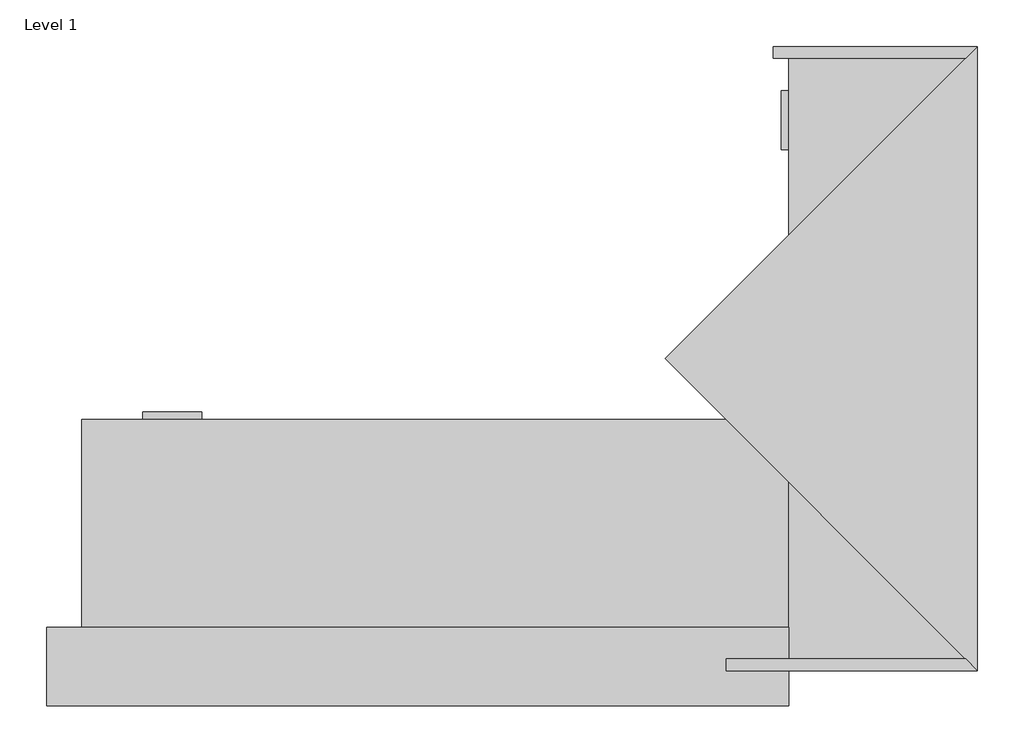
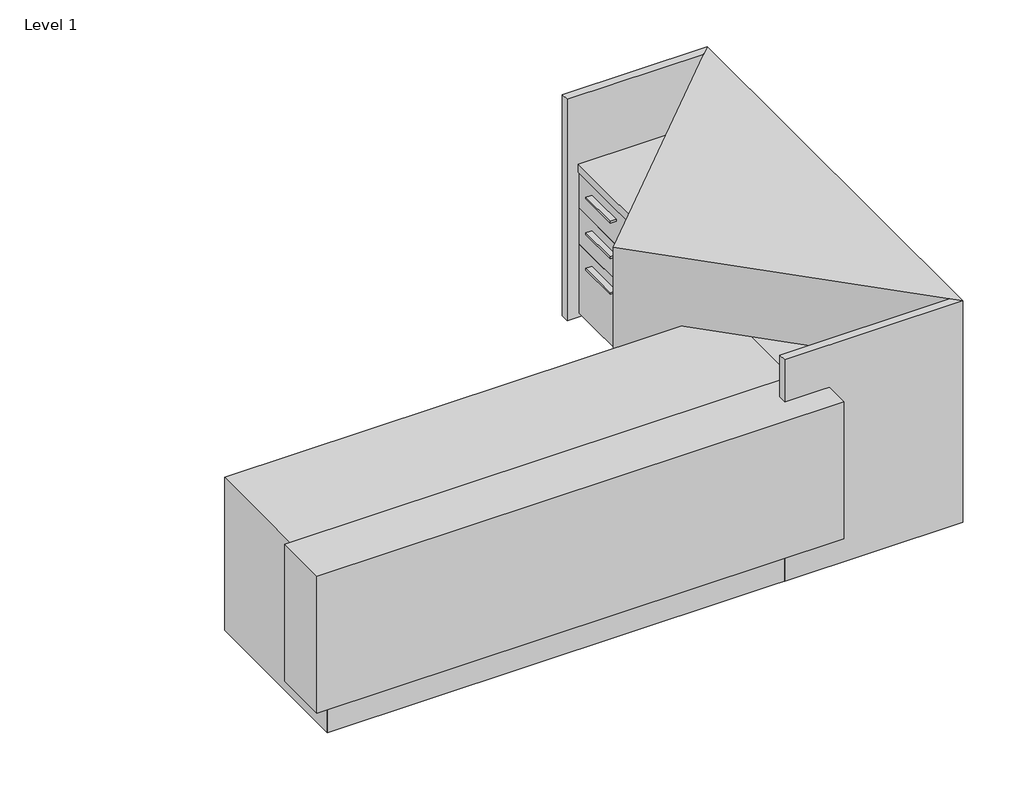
# One storey: 5 proxies.
"""IFC4 building model written with IfcOpenShell, lengths in millimetres."""

import ifcopenshell
import ifcopenshell.guid

model = None  # the IFC model being written
_history = None  # IfcOwnerHistory: only IFC2X3 demands one
_inside = {}  # id of a spatial element -> (the spatial element, [elements in it])
_under = {}  # id of a project, library or spatial element -> (it, [spatial elements below it])
_declared = {}  # id of a project -> (the project, [libraries it declares])
_typed = {}  # id of a type object -> (the type object, [elements of that type])
_made_of = {}  # id of a material, layer set ... -> (it, [elements and type objects made of it])


def new_model(schema):
    """Start an empty IFC model of exactly this schema.

    Asked for "IFC4X3", IfcOpenShell would pick the latest addendum, in which some entities
    have other attributes; the version numbers below select the first issue.
    IFC2X3 requires an IfcOwnerHistory on every rooted entity: one is made here for all.
    """
    global model, _history
    if schema == "IFC4X3":
        model = ifcopenshell.file(schema_version=(4, 3, 0, 0))
    else:
        model = ifcopenshell.file(schema=schema)
    _inside.clear()
    _under.clear()
    _declared.clear()
    _typed.clear()
    _made_of.clear()
    _history = None
    if model.schema == "IFC2X3":
        org = make("IfcOrganization", Name="unknown")
        user = make(
            "IfcPersonAndOrganization",
            ThePerson=make("IfcPerson", FamilyName="unknown"),
            TheOrganization=org,
        )
        app = make(
            "IfcApplication",
            ApplicationDeveloper=org,
            Version="unknown",
            ApplicationFullName="unknown",
            ApplicationIdentifier="unknown",
        )
        _history = make(
            "IfcOwnerHistory",
            OwningUser=user,
            OwningApplication=app,
            ChangeAction="ADDED",
            CreationDate=0,
        )
    return model


def make(cls, **values):
    """One entity of the class cls with the attributes given. An attribute that is None is left unset."""
    return model.create_entity(
        cls, **{name: value for name, value in values.items() if value is not None}
    )


def rooted(cls, **values):
    """An entity with a GlobalId (a new one), such as an element, a storey or a relation."""
    return make(cls, GlobalId=ifcopenshell.guid.new(), OwnerHistory=_history, **values)


def si_unit(unit_type, name, prefix=None):
    """IfcSIUnit, for example si_unit("LENGTHUNIT", "METRE", prefix="MILLI")."""
    return make("IfcSIUnit", UnitType=unit_type, Prefix=prefix, Name=name)


def assignment(units):
    """IfcUnitAssignment: the units of a project."""
    return None if units is None else make("IfcUnitAssignment", Units=units)


def point(xyz):
    """IfcCartesianPoint."""
    return None if xyz is None else make("IfcCartesianPoint", Coordinates=xyz)


def direction(xyz):
    """IfcDirection."""
    return None if xyz is None else make("IfcDirection", DirectionRatios=xyz)


def frame(location, z_axis=None, x_axis=None):
    """IfcAxis2Placement3D, a coordinate frame: its origin and axes. An axis left out is left unset."""
    return make(
        "IfcAxis2Placement3D",
        Location=point(location),
        Axis=direction(z_axis),
        RefDirection=direction(x_axis),
    )


def origin():
    """The frame at (0, 0, 0) with its axes left unset."""
    return frame((0.0, 0.0, 0.0))


def place(relative_to, where):
    """IfcLocalPlacement: puts the frame where relative to a parent placement (None: the world)."""
    return make(
        "IfcLocalPlacement", PlacementRelTo=relative_to, RelativePlacement=where
    )


def context(
    kind, dimensions, precision=None, world=None, true_north=None, identifier=None
):
    """IfcGeometricRepresentationContext, for example the 3D "Model" context."""
    return make(
        "IfcGeometricRepresentationContext",
        ContextIdentifier=identifier,
        ContextType=kind,
        CoordinateSpaceDimension=dimensions,
        Precision=precision,
        WorldCoordinateSystem=world,
        TrueNorth=true_north,
    )


def project(units=None, contexts=None):
    """IfcProject with its units and contexts."""
    return rooted(
        "IfcProject",
        Name="project",
        RepresentationContexts=contexts,
        UnitsInContext=assignment(units),
    )


def spatial(cls, under=None, at=None, **own):
    """A site, building, storey or space (cls), placed at a placement, below another one or the project."""
    s = rooted(cls, ObjectPlacement=at, **own)
    if under is not None:
        _under.setdefault(under.id(), (under, []))[1].append(s)
    return s


def polyline(points):
    """IfcPolyline through the points."""
    return make("IfcPolyline", Points=[point(p) for p in points])


def outline(outer, holes=None, kind="AREA"):
    """IfcArbitraryClosedProfileDef: a profile drawn as a closed curve; with holes, ...WithVoids."""
    if holes is None:
        return make("IfcArbitraryClosedProfileDef", ProfileType=kind, OuterCurve=outer)
    return make(
        "IfcArbitraryProfileDefWithVoids",
        ProfileType=kind,
        OuterCurve=outer,
        InnerCurves=holes,
    )


def extrude(swept, where, along, depth):
    """IfcExtrudedAreaSolid: the profile swept, set in the frame where, extruded along a direction by depth."""
    return make(
        "IfcExtrudedAreaSolid",
        SweptArea=swept,
        Position=where,
        ExtrudedDirection=direction(along),
        Depth=depth,
    )


def faces_of(points, faces, orient=None, outer=None):
    """IfcFace entities. A face is a list of loops; a loop is a list of indices into points, from 0.

    orient and outer hold one flag for each loop. By default every Orientation is true, the
    first loop of a face is its IfcFaceOuterBound and the others are IfcFaceBound.
    """
    made = []
    for i, loops in enumerate(faces):
        bounds = []
        for j, loop in enumerate(loops):
            is_outer = j == 0 if outer is None else outer[i][j]
            bounds.append(
                make(
                    "IfcFaceOuterBound" if is_outer else "IfcFaceBound",
                    Bound=make("IfcPolyLoop", Polygon=[points[k] for k in loop]),
                    Orientation=True if orient is None else orient[i][j],
                )
            )
        made.append(make("IfcFace", Bounds=bounds))
    return made


def faceted_brep(points, faces, orient=None, outer=None, voids=None):
    """IfcFacetedBrep: a solid bounded by flat faces; with voids (closed shells), ...WithVoids."""
    shared = [point(p) for p in points]
    hull = make("IfcClosedShell", CfsFaces=faces_of(shared, faces, orient, outer))
    if voids is None:
        return make("IfcFacetedBrep", Outer=hull)
    return make(
        "IfcFacetedBrepWithVoids",
        Outer=hull,
        Voids=[
            make(cls, CfsFaces=faces_of(shared, fs, o, b)) for cls, fs, o, b in voids
        ],
    )


def shape(context_of_items, identifier, shape_type, items):
    """IfcShapeRepresentation: the items that make up one representation, for example the "Body"."""
    return make(
        "IfcShapeRepresentation",
        ContextOfItems=context_of_items,
        RepresentationIdentifier=identifier,
        RepresentationType=shape_type,
        Items=items,
    )


def source(mapping_origin, context_of_items, identifier, shape_type, items):
    """IfcRepresentationMap: a shape defined once, which mapped items show again and again."""
    return make(
        "IfcRepresentationMap",
        MappingOrigin=mapping_origin,
        MappedRepresentation=shape(context_of_items, identifier, shape_type, items),
    )


def transform(
    local_origin,
    x_axis=None,
    y_axis=None,
    z_axis=None,
    scale=None,
    scale2=None,
    scale3=None,
    uniform=True,
):
    """IfcCartesianTransformationOperator3D, or its non-uniform kind. x_axis, y_axis, z_axis: its Axis1, 2, 3."""
    if uniform:
        return make(
            "IfcCartesianTransformationOperator3D",
            Axis1=direction(x_axis),
            Axis2=direction(y_axis),
            LocalOrigin=point(local_origin),
            Scale=scale,
            Axis3=direction(z_axis),
        )
    return make(
        "IfcCartesianTransformationOperator3DnonUniform",
        Axis1=direction(x_axis),
        Axis2=direction(y_axis),
        LocalOrigin=point(local_origin),
        Scale=scale,
        Axis3=direction(z_axis),
        Scale2=scale2,
        Scale3=scale3,
    )


def mapped(mapping_source, mapping_target):
    """IfcMappedItem: shows the shape of a source again, moved by a transform."""
    return make(
        "IfcMappedItem", MappingSource=mapping_source, MappingTarget=mapping_target
    )


def made_of(thing, what):
    """Note that an element or type object is made of a material, layer set ...; save() writes the relation."""
    if what is not None:
        _made_of.setdefault(what.id(), (what, []))[1].append(thing)
    return thing


def element(
    cls,
    number,
    at=None,
    inside=None,
    cuts=None,
    type_object=None,
    material=None,
    context=None,
    identifier="Body",
    shape_type=None,
    held_by="IfcProductDefinitionShape",
    body=None,
    shapes=None,
    **own,
):
    """One element of the class cls, such as IfcWall. Its Tag is "e" and its number.

    at: its placement. inside: the storey or other place that contains it. cuts: it is an
    opening in that element (IfcRelVoidsElement). A single representation is given by context,
    identifier, shape_type and body (its items); several are given by shapes. held_by: the class
    of the entity that holds the representations. save() writes the other relations.
    """
    e = rooted(cls, Tag="e%d" % number, ObjectPlacement=at, **own)
    if body is not None:
        shapes = [shape(context, identifier, shape_type, body)]
    if shapes is not None:
        e.Representation = make(held_by, Representations=shapes)
    if inside is not None:
        _inside.setdefault(inside.id(), (inside, []))[1].append(e)
    if cuts is not None:
        rooted(
            "IfcRelVoidsElement", RelatingBuildingElement=cuts, RelatedOpeningElement=e
        )
    if type_object is not None:
        _typed.setdefault(type_object.id(), (type_object, []))[1].append(e)
    return made_of(e, material)


def aggregate(whole, parts):
    """IfcRelAggregates: a whole, such as a stair, and the parts it consists of."""
    return rooted("IfcRelAggregates", RelatingObject=whole, RelatedObjects=parts)


def save(model, path):
    """Write the relations noted so far, then the file.

    IfcRelAggregates (storeys below a building ...), IfcRelContainedInSpatialStructure (elements
    in a storey), IfcRelDefinesByType, IfcRelAssociatesMaterial and IfcRelDeclares: one each for
    every whole, place, type object, material and project.
    """
    for whole, parts in _under.values():
        aggregate(whole, parts)
    for where, things in _inside.values():
        rooted(
            "IfcRelContainedInSpatialStructure",
            RelatedElements=things,
            RelatingStructure=where,
        )
    for kind, things in _typed.values():
        rooted("IfcRelDefinesByType", RelatedObjects=things, RelatingType=kind)
    for what, things in _made_of.values():
        rooted("IfcRelAssociatesMaterial", RelatedObjects=things, RelatingMaterial=what)
    for by, libraries in _declared.values():
        rooted("IfcRelDeclares", RelatingContext=by, RelatedDefinitions=libraries)
    model.write(path)


def generic_models_16f8150b(model_context):
    return source(origin(), model_context, "Body", "SweptSolid", [
        extrude(outline(polyline([(234.6325, 0.0), (42.8625, 0.0), (42.8625, 8.89), (234.6325, 8.89), (234.6325, 0.0)])), frame((0.0, 0.0, 25.4), z_axis=(0.0, 0.0, 1.0), x_axis=(1.0, 0.0, 0.0)), (0.0, 0.0, 1.0), 27.94),
    ])


def generic_models_22d0e814(model_context):
    return source(origin(), model_context, "Body", "SolidModel", [
        extrude(outline(polyline([(-609.6, 698.5), (-609.6, 736.6), (-38.1, 736.6), (-38.1, 698.5), (-609.6, 698.5)])), frame((0.0, 0.0, -1981.2), z_axis=(0.0, 0.0, 1.0), x_axis=(1.0, 0.0, 0.0)), (0.0, 0.0, 1.0), 1943.1),
        faceted_brep([(-1765.3, 736.6, 0.0), (-1765.3, 736.6, -133.35), (-1733.55, 736.6, -133.35), (-1733.55, 736.6, 0.0), (-641.35, 736.6, 0.0), (-609.6, 736.6, 0.0), (-609.6, 736.6, -812.8), (-2895.6, 736.6, -812.8), (-2895.6, 736.6, 0.0), (-2857.5, 736.6, 0.0), (-2857.5, 698.5, -38.1), (-2857.5, 698.5, -812.8), (-609.6, 698.5, -812.8), (-609.6, 698.5, -38.1), (-1733.55, 831.85, 0.0), (-1733.55, 831.85, -133.35), (-1765.3, 831.85, 0.0), (-1765.3, 831.85, -133.35), (-641.35, 831.85, 0.0), (-641.35, 736.6, 0.0), (-641.35, 222.25, 0.0), (-2857.5, 222.25, 0.0), (-2857.5, 736.6, 0.0), (-2857.5, 222.25, 31.75), (-641.35, 222.25, 31.75), (-2857.5, 831.85, 0.0), (-2857.5, 831.85, 31.75), (-641.35, 831.85, 31.75)], [[[0, 1, 2, 3, 4, 5, 6, 7, 8, 9]], [[10, 11, 12, 13]], [[14, 3, 2, 15]], [[0, 16, 17, 1]], [[2, 1, 17, 15]], [[3, 14, 18, 19]], [[3, 19, 20, 21, 22, 0]], [[23, 21, 20, 24]], [[16, 0, 22, 25]], [[25, 26, 27, 18, 14, 15, 17, 16]], [[26, 23, 24, 27]], [[24, 20, 19, 18, 27]], [[25, 22, 21, 23, 26]], [[7, 11, 10, 8]], [[8, 10, 13, 5, 4, 3, 0, 9]], [[5, 13, 12, 6]], [[11, 7, 6, 12]]]),
        extrude(outline(polyline([(-587.375, 696.11875), (-587.375, 526.653125), (-606.425, 526.653125), (-606.425, 696.11875), (-587.375, 696.11875)])), frame((0.0, 0.0, -1978.81875), z_axis=(0.0, 0.0, 1.0), x_axis=(1.0, 0.0, 0.0)), (0.0, 0.0, 1.0), 395.2875),
        extrude(outline(polyline([(-38.1, 698.5), (-38.1, 19.05), (-584.2, 19.05), (-584.2, 698.5), (-38.1, 698.5)])), frame((0.0, 0.0, -1981.2), z_axis=(0.0, 0.0, 1.0), x_axis=(1.0, 0.0, 0.0)), (0.0, 0.0, 1.0), 19.05),
        extrude(outline(polyline([(-587.375, 352.425), (-587.375, 19.05), (-606.425, 19.05), (-606.425, 352.425), (-587.375, 352.425)])), frame((0.0, 0.0, -1978.81875), z_axis=(0.0, 0.0, 1.0), x_axis=(1.0, 0.0, 0.0)), (0.0, 0.0, 1.0), 395.2875),
        extrude(outline(polyline([(-2838.45, 698.5), (-2368.55, 698.5), (-2368.55, 679.45), (-2838.45, 679.45), (-2838.45, 698.5)])), frame((0.0, 0.0, -787.4), z_axis=(0.0, 0.0, 1.0), x_axis=(1.0, 0.0, 0.0)), (0.0, 0.0, 1.0), 730.25),
        extrude(outline(polyline([(-2368.55, 38.1), (-2368.55, 0.0), (-2838.45, 0.0), (-2838.45, 38.1), (-2368.55, 38.1)])), frame((0.0, 0.0, -787.4), z_axis=(0.0, 0.0, 1.0), x_axis=(1.0, 0.0, 0.0)), (0.0, 0.0, 1.0), 730.25),
        extrude(outline(polyline([(-584.2, 0.0), (-584.2, 38.1), (-57.15, 38.1), (-57.15, 0.0), (-584.2, 0.0)])), frame((0.0, 0.0, -1962.15), z_axis=(0.0, 0.0, 1.0), x_axis=(1.0, 0.0, 0.0)), (0.0, 0.0, 1.0), 361.95),
        extrude(outline(polyline([(-2838.45, 19.05), (-2857.5, 19.05), (-2857.5, 698.5), (-2838.45, 698.5), (-2838.45, 19.05)])), frame((0.0, 0.0, -787.4), z_axis=(0.0, 0.0, 1.0), x_axis=(1.0, 0.0, 0.0)), (0.0, 0.0, 1.0), 749.3),
        faceted_brep([(-2895.6, 0.0, 0.0), (-2895.6, 736.6, 0.0), (-2895.6, 736.6, -812.8), (-2895.6, 0.0, -812.8), (-2857.5, 698.5, -38.1), (-2857.5, 698.5, -812.8), (-2857.5, 0.0, -38.1), (-2857.5, 0.0, -812.8)], [[[0, 1, 2, 3]], [[1, 4, 5, 2]], [[4, 6, 7, 5]], [[6, 0, 3, 7]], [[3, 2, 5, 7]], [[4, 1, 0, 6]]]),
        extrude(outline(polyline([(-587.375, 524.271875), (-587.375, 354.80625), (-606.425, 354.80625), (-606.425, 524.271875), (-587.375, 524.271875)])), frame((0.0, 0.0, -1978.81875), z_axis=(0.0, 0.0, 1.0), x_axis=(1.0, 0.0, 0.0)), (0.0, 0.0, 1.0), 395.2875),
        extrude(outline(polyline([(0.0, -812.8), (-38.1, -812.8), (-38.1, -38.1), (0.0, 0.0), (0.0, -812.8)])), frame((0.0, 0.0, 0.0), z_axis=(0.0, 1.0, 0.0), x_axis=(0.0, 0.0, 1.0)), (0.0, 0.0, 1.0), 1066.8),
        extrude(outline(polyline([(-609.6, 863.6), (-609.6, 203.2), (-3009.9, 203.2), (-3009.9, 863.6), (-609.6, 863.6)])), frame((0.0, 0.0, -139.7), z_axis=(0.0, 0.0, 1.0), x_axis=(1.0, 0.0, 0.0)), (0.0, 0.0, 1.0), 254.0),
        extrude(outline(polyline([(-584.2, 679.45), (-584.2, 698.5), (-57.15, 698.5), (-57.15, 679.45), (-584.2, 679.45)])), frame((0.0, 0.0, -1962.15), z_axis=(0.0, 0.0, 1.0), x_axis=(1.0, 0.0, 0.0)), (0.0, 0.0, 1.0), 361.95),
        extrude(outline(polyline([(-2368.55, 19.05), (-2368.55, 698.5), (-2349.5, 698.5), (-2349.5, 19.05), (-2368.55, 19.05)])), frame((0.0, 0.0, -787.4), z_axis=(0.0, 0.0, 1.0), x_axis=(1.0, 0.0, 0.0)), (0.0, 0.0, 1.0), 749.3),
        extrude(outline(polyline([(-2351.88125, 19.05), (-2855.11875, 19.05), (-2855.11875, 696.11875), (-2351.88125, 696.11875), (-2351.88125, 19.05)])), frame((0.0, 0.0, -809.625), z_axis=(0.0, 0.0, 1.0), x_axis=(1.0, 0.0, 0.0)), (0.0, 0.0, 1.0), 19.05),
        extrude(outline(polyline([(-38.1, 698.5), (-38.1, 19.05), (-584.2, 19.05), (-584.2, 698.5), (-38.1, 698.5)])), frame((0.0, 0.0, -1600.2), z_axis=(0.0, 0.0, 1.0), x_axis=(1.0, 0.0, 0.0)), (0.0, 0.0, 1.0), 19.05),
        faceted_brep([(-2857.5, 0.0, -38.1), (-2895.6, 0.0, 0.0), (-2895.6, 736.6, 0.0), (-2857.5, 698.5, -38.1), (-609.6, 698.5, -38.1), (-609.6, 0.0, -38.1), (-609.6, 736.6, 0.0), (-609.6, 0.0, 0.0)], [[[0, 1, 2, 3]], [[0, 3, 4, 5]], [[3, 2, 6, 4]], [[7, 6, 2, 1]], [[1, 0, 5, 7]], [[7, 5, 4, 6]]]),
        extrude(outline(polyline([(-1981.2, -660.4), (-2019.3, -660.4), (-2019.3, 0.0), (-1981.2, -38.1), (-1981.2, -660.4)])), frame((0.0, 0.0, 0.0), z_axis=(0.0, 1.0, 0.0), x_axis=(0.0, 0.0, 1.0)), (0.0, 0.0, 1.0), 1066.8),
        extrude(outline(polyline([(-2838.45, 19.05), (-2838.45, 698.5), (-2368.55, 698.5), (-2368.55, 19.05), (-2838.45, 19.05)])), frame((0.0, 0.0, -57.15), z_axis=(0.0, 0.0, 1.0), x_axis=(1.0, 0.0, 0.0)), (0.0, 0.0, 1.0), 19.05),
        extrude(outline(polyline([(-1009.65, -1009.65), (-2019.3, 0.0), (0.0, 0.0), (-1009.65, -1009.65)])), frame((0.0, 0.0, 0.0), z_axis=(0.0, 1.0, 0.0), x_axis=(0.0, 0.0, 1.0)), (0.0, 0.0, 1.0), 1066.8),
    ])


model = new_model("IFC4")

# Units and contexts
model_context = context("Model", 3, world=origin())
ifc_project = project(units=[si_unit("LENGTHUNIT", "METRE", prefix="MILLI")], contexts=[model_context])

# Site, building, storey
site = spatial("IfcSite", under=ifc_project)
building = spatial("IfcBuilding", under=site)
storey = spatial("IfcBuildingStorey", under=building, Name="Level 1", Elevation=0.0)

# Proxies
placement = place(None, origin())
generic_models_shape = generic_models_16f8150b(model_context)
element("IfcBuildingElementProxy", 1, Name="HAFELE 102.12.004-7_5 INCH", ObjectType="HAFELE 102.12.004-7_5 INCH", at=placement, inside=storey, context=model_context, shape_type="MappedRepresentation", body=[
    mapped(generic_models_shape, transform((430.8475, -1235.075, 640.87375), x_axis=(-1.0, 0.0, 0.0), y_axis=(0.0, 0.0, 1.0), z_axis=(0.0, 1.0, 0.0))),
])
element("IfcBuildingElementProxy", 2, Name="HAFELE 102.12.004-7_5 INCH", ObjectType="HAFELE 102.12.004-7_5 INCH", at=placement, inside=storey, context=model_context, shape_type="MappedRepresentation", body=[
    mapped(generic_models_shape, transform((2314.575, -99.3775, 640.87375), x_axis=(0.0, -1.0, 0.0), y_axis=(0.0, 0.0, 1.0), z_axis=(-1.0, 0.0, 0.0))),
])
element("IfcBuildingElementProxy", 3, Name="HAFELE 102.12.004-7_5 INCH", ObjectType="HAFELE 102.12.004-7_5 INCH", at=placement, inside=storey, context=model_context, shape_type="MappedRepresentation", body=[
    mapped(generic_models_shape, transform((2314.575, -99.3775, 297.18), x_axis=(0.0, -1.0, 0.0), y_axis=(0.0, 0.0, 1.0), z_axis=(-1.0, 0.0, 0.0))),
])
element("IfcBuildingElementProxy", 4, Name="HAFELE 102.12.004-7_5 INCH", ObjectType="HAFELE 102.12.004-7_5 INCH", at=placement, inside=storey, context=model_context, shape_type="MappedRepresentation", body=[
    mapped(generic_models_shape, transform((2314.575, -99.3775, 469.026875), x_axis=(0.0, -1.0, 0.0), y_axis=(0.0, 0.0, 1.0), z_axis=(-1.0, 0.0, 0.0))),
])
generic_models_2_shape = generic_models_22d0e814(model_context)
element("IfcBuildingElementProxy", 5, Name="SALUTE^RECEPT 7_SHORT TRANS L-SHAPE-PARTS SOLID", ObjectType="SALUTE^RECEPT 7_SHORT TRANS L-SHAPE-PARTS SOLID", at=placement, inside=storey, context=model_context, shape_type="MappedRepresentation", body=[
    mapped(generic_models_2_shape, transform((2895.6, -2019.3, 0.0), x_axis=(1.0, 0.0, 0.0), y_axis=(0.0, 0.0, 1.0), z_axis=(0.0, -1.0, 0.0))),
])

save(model, "model.ifc")
